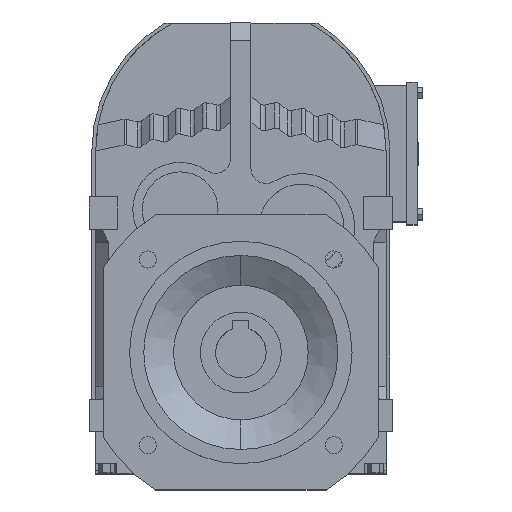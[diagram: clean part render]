
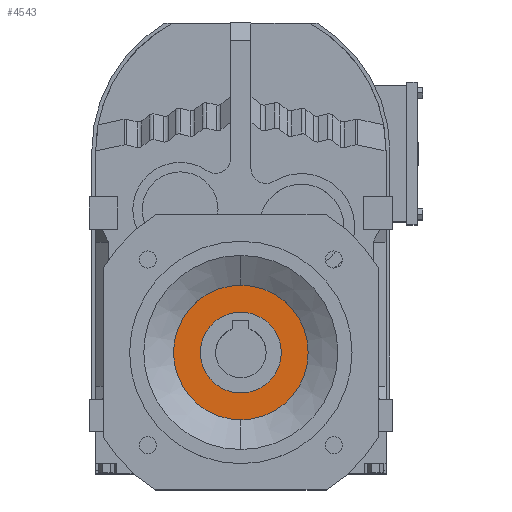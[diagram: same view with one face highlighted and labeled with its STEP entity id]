
A CAD part, top view. The second image highlights one B-rep face of the part: STEP entity #4543.
In plain terms, the highlighted planar face has unit normal (0, 0, 1).
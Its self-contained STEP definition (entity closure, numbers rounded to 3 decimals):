
#486 = CYLINDRICAL_SURFACE('',#487,33.3);
#487 = AXIS2_PLACEMENT_3D('',#488,#489,#490);
#488 = CARTESIAN_POINT('',(0.,-98.7,110.123));
#489 = DIRECTION('',(0.,0.,1.));
#490 = DIRECTION('',(1.,0.,0.));
#512 = CYLINDRICAL_SURFACE('',#513,33.3);
#513 = AXIS2_PLACEMENT_3D('',#514,#515,#516);
#514 = CARTESIAN_POINT('',(0.,-98.7,110.123));
#515 = DIRECTION('',(0.,0.,1.));
#516 = DIRECTION('',(1.,0.,0.));
#688 = EDGE_CURVE('',#689,#691,#693,.T.);
#689 = VERTEX_POINT('',#690);
#690 = CARTESIAN_POINT('',(-33.3,-98.7,91.5));
#691 = VERTEX_POINT('',#692);
#692 = CARTESIAN_POINT('',(33.3,-98.7,91.5));
#693 = SURFACE_CURVE('',#694,(#699,#705),.PCURVE_S1.);
#694 = CIRCLE('',#695,33.3);
#695 = AXIS2_PLACEMENT_3D('',#696,#697,#698);
#696 = CARTESIAN_POINT('',(0.,-98.7,91.5));
#697 = DIRECTION('',(0.,0.,1.));
#698 = DIRECTION('',(1.,0.,0.));
#699 = PCURVE('',#512,#700);
#700 = DEFINITIONAL_REPRESENTATION('',(#701),#704);
#701 = B_SPLINE_CURVE_WITH_KNOTS('',1,(#702,#703),.UNSPECIFIED.,.F.,.F.,
  (2,2),(3.142,6.283),.PIECEWISE_BEZIER_KNOTS.);
#702 = CARTESIAN_POINT('',(3.142,-18.623));
#703 = CARTESIAN_POINT('',(6.283,-18.623));
#704 = ( GEOMETRIC_REPRESENTATION_CONTEXT(2) 
PARAMETRIC_REPRESENTATION_CONTEXT() REPRESENTATION_CONTEXT('2D SPACE',''
  ) );
#705 = PCURVE('',#706,#711);
#706 = PLANE('',#707);
#707 = AXIS2_PLACEMENT_3D('',#708,#709,#710);
#708 = CARTESIAN_POINT('',(0.,-65.4,91.5));
#709 = DIRECTION('',(0.,0.,1.));
#710 = DIRECTION('',(1.,0.,0.));
#711 = DEFINITIONAL_REPRESENTATION('',(#712),#716);
#712 = CIRCLE('',#713,33.3);
#713 = AXIS2_PLACEMENT_2D('',#714,#715);
#714 = CARTESIAN_POINT('',(0.,-33.3));
#715 = DIRECTION('',(1.,0.));
#716 = ( GEOMETRIC_REPRESENTATION_CONTEXT(2) 
PARAMETRIC_REPRESENTATION_CONTEXT() REPRESENTATION_CONTEXT('2D SPACE',''
  ) );
#1079 = EDGE_CURVE('',#691,#689,#1080,.T.);
#1080 = SURFACE_CURVE('',#1081,(#1086,#1092),.PCURVE_S1.);
#1081 = CIRCLE('',#1082,33.3);
#1082 = AXIS2_PLACEMENT_3D('',#1083,#1084,#1085);
#1083 = CARTESIAN_POINT('',(0.,-98.7,91.5));
#1084 = DIRECTION('',(0.,0.,1.));
#1085 = DIRECTION('',(1.,0.,0.));
#1086 = PCURVE('',#486,#1087);
#1087 = DEFINITIONAL_REPRESENTATION('',(#1088),#1091);
#1088 = B_SPLINE_CURVE_WITH_KNOTS('',1,(#1089,#1090),.UNSPECIFIED.,.F.,
  .F.,(2,2),(0.,3.142),.PIECEWISE_BEZIER_KNOTS.);
#1089 = CARTESIAN_POINT('',(0.,-18.623));
#1090 = CARTESIAN_POINT('',(3.142,-18.623));
#1091 = ( GEOMETRIC_REPRESENTATION_CONTEXT(2) 
PARAMETRIC_REPRESENTATION_CONTEXT() REPRESENTATION_CONTEXT('2D SPACE',''
  ) );
#1092 = PCURVE('',#706,#1093);
#1093 = DEFINITIONAL_REPRESENTATION('',(#1094),#1098);
#1094 = CIRCLE('',#1095,33.3);
#1095 = AXIS2_PLACEMENT_2D('',#1096,#1097);
#1096 = CARTESIAN_POINT('',(0.,-33.3));
#1097 = DIRECTION('',(1.,0.));
#1098 = ( GEOMETRIC_REPRESENTATION_CONTEXT(2) 
PARAMETRIC_REPRESENTATION_CONTEXT() REPRESENTATION_CONTEXT('2D SPACE',''
  ) );
#4543 = ADVANCED_FACE('',(#4544,#4548),#706,.T.);
#4544 = FACE_BOUND('',#4545,.T.);
#4545 = EDGE_LOOP('',(#4546,#4547));
#4546 = ORIENTED_EDGE('',*,*,#1079,.T.);
#4547 = ORIENTED_EDGE('',*,*,#688,.T.);
#4548 = FACE_BOUND('',#4549,.T.);
#4549 = EDGE_LOOP('',(#4550,#4580));
#4550 = ORIENTED_EDGE('',*,*,#4551,.F.);
#4551 = EDGE_CURVE('',#4552,#4554,#4556,.T.);
#4552 = VERTEX_POINT('',#4553);
#4553 = CARTESIAN_POINT('',(20.,-98.7,91.5));
#4554 = VERTEX_POINT('',#4555);
#4555 = CARTESIAN_POINT('',(-20.,-98.7,91.5));
#4556 = SURFACE_CURVE('',#4557,(#4562,#4569),.PCURVE_S1.);
#4557 = CIRCLE('',#4558,20.);
#4558 = AXIS2_PLACEMENT_3D('',#4559,#4560,#4561);
#4559 = CARTESIAN_POINT('',(0.,-98.7,91.5));
#4560 = DIRECTION('',(0.,0.,1.));
#4561 = DIRECTION('',(1.,0.,0.));
#4562 = PCURVE('',#706,#4563);
#4563 = DEFINITIONAL_REPRESENTATION('',(#4564),#4568);
#4564 = CIRCLE('',#4565,20.);
#4565 = AXIS2_PLACEMENT_2D('',#4566,#4567);
#4566 = CARTESIAN_POINT('',(0.,-33.3));
#4567 = DIRECTION('',(1.,0.));
#4568 = ( GEOMETRIC_REPRESENTATION_CONTEXT(2) 
PARAMETRIC_REPRESENTATION_CONTEXT() REPRESENTATION_CONTEXT('2D SPACE',''
  ) );
#4569 = PCURVE('',#4570,#4575);
#4570 = CYLINDRICAL_SURFACE('',#4571,20.);
#4571 = AXIS2_PLACEMENT_3D('',#4572,#4573,#4574);
#4572 = CARTESIAN_POINT('',(0.,-98.7,110.123));
#4573 = DIRECTION('',(0.,0.,1.));
#4574 = DIRECTION('',(1.,0.,0.));
#4575 = DEFINITIONAL_REPRESENTATION('',(#4576),#4579);
#4576 = B_SPLINE_CURVE_WITH_KNOTS('',1,(#4577,#4578),.UNSPECIFIED.,.F.,
  .F.,(2,2),(0.,3.142),.PIECEWISE_BEZIER_KNOTS.);
#4577 = CARTESIAN_POINT('',(0.,-18.623));
#4578 = CARTESIAN_POINT('',(3.142,-18.623));
#4579 = ( GEOMETRIC_REPRESENTATION_CONTEXT(2) 
PARAMETRIC_REPRESENTATION_CONTEXT() REPRESENTATION_CONTEXT('2D SPACE',''
  ) );
#4580 = ORIENTED_EDGE('',*,*,#4581,.F.);
#4581 = EDGE_CURVE('',#4554,#4552,#4582,.T.);
#4582 = SURFACE_CURVE('',#4583,(#4588,#4595),.PCURVE_S1.);
#4583 = CIRCLE('',#4584,20.);
#4584 = AXIS2_PLACEMENT_3D('',#4585,#4586,#4587);
#4585 = CARTESIAN_POINT('',(0.,-98.7,91.5));
#4586 = DIRECTION('',(0.,0.,1.));
#4587 = DIRECTION('',(1.,0.,0.));
#4588 = PCURVE('',#706,#4589);
#4589 = DEFINITIONAL_REPRESENTATION('',(#4590),#4594);
#4590 = CIRCLE('',#4591,20.);
#4591 = AXIS2_PLACEMENT_2D('',#4592,#4593);
#4592 = CARTESIAN_POINT('',(0.,-33.3));
#4593 = DIRECTION('',(1.,0.));
#4594 = ( GEOMETRIC_REPRESENTATION_CONTEXT(2) 
PARAMETRIC_REPRESENTATION_CONTEXT() REPRESENTATION_CONTEXT('2D SPACE',''
  ) );
#4595 = PCURVE('',#4596,#4601);
#4596 = CYLINDRICAL_SURFACE('',#4597,20.);
#4597 = AXIS2_PLACEMENT_3D('',#4598,#4599,#4600);
#4598 = CARTESIAN_POINT('',(0.,-98.7,110.123));
#4599 = DIRECTION('',(0.,0.,1.));
#4600 = DIRECTION('',(1.,0.,0.));
#4601 = DEFINITIONAL_REPRESENTATION('',(#4602),#4605);
#4602 = B_SPLINE_CURVE_WITH_KNOTS('',1,(#4603,#4604),.UNSPECIFIED.,.F.,
  .F.,(2,2),(3.142,6.283),.PIECEWISE_BEZIER_KNOTS.);
#4603 = CARTESIAN_POINT('',(3.142,-18.623));
#4604 = CARTESIAN_POINT('',(6.283,-18.623));
#4605 = ( GEOMETRIC_REPRESENTATION_CONTEXT(2) 
PARAMETRIC_REPRESENTATION_CONTEXT() REPRESENTATION_CONTEXT('2D SPACE',''
  ) );
